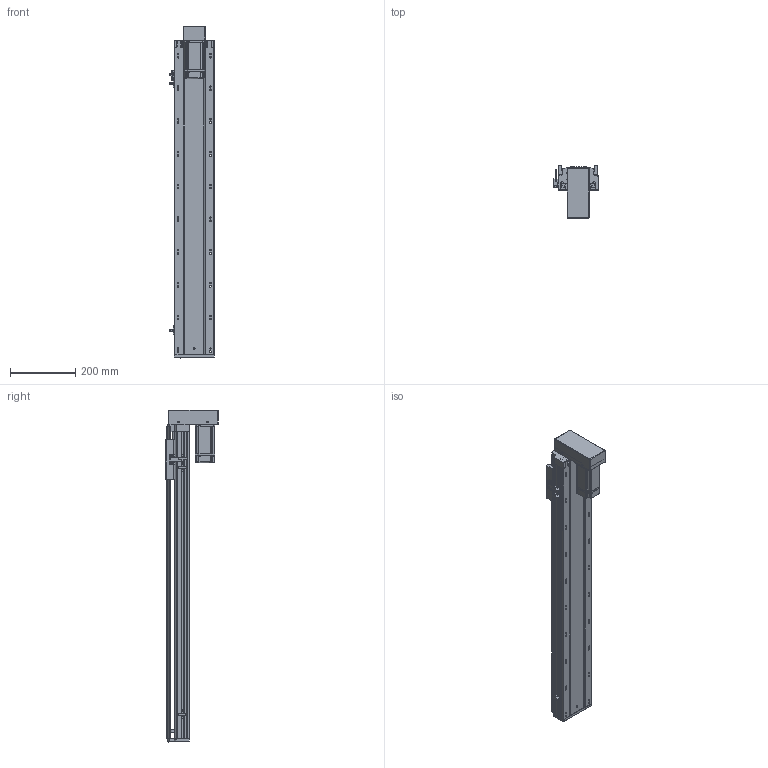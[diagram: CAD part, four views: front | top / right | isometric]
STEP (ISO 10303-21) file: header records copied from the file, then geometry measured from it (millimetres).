
FILE_DESCRIPTION (( 'STEP AP203' ), '1' );
FILE_NAME ('RY120-L2020-300-BK.SLDASM_750.step', '2021-03-12T06:58:01', ( '盈信电脑' ), ( '东莞市道滘镇水果街19号' ), 'SwSTEP 2.0', 'SolidWorks 2012', '' );
FILE_SCHEMA (( 'CONFIG_CONTROL_DESIGN' ));
Length unit declared in the file: millimetre
Products named in the file (15): RY120-L2020-300-BK.SLDASM_750; RY120下折折电机安装板; RY120-400W萇儂傷-BK; 侂狟400W侜督萇儂; RY120狟殏萇儂欶; 滅袉蝶18-24; RY120转拆电端丝杆支撑座(20丝杆，7002轴承); RY120外置感应片(140共用）; 15; RY120綴裔啣; 覜茼ん672; RY120臏賑輸(20蹟譫); 滅袉蝶18-10; RY120-300-BK蛌殏倰第奻裔啣_750; RY120-300-BK蛌殏倰第菁釱_750
Assembly tree (17 placements, depth 4):
  RY120-L2020-300-BK.SLDASM_750
    RY120-300-BK蛌殏倰第菁釱_750
    RY120-300-BK蛌殏倰第奻裔啣_750
    RY120臏賑輸(20蹟譫)
    RY120綴裔啣
    覜茼ん672  x3
    滅袉蝶18-10
    滅袉蝶18-24  x2
    RY120外置感应片(140共用）
    RY120转拆电端丝杆支撑座(20丝杆，7002轴承)
    RY120-400W萇儂傷-BK
      侂狟400W侜督萇儂
        15
      RY120狟殏萇儂欶
      RY120下折折电机安装板
Bounding box: 135.7 x 159.5 x 1014 mm (x, y, z)
Volume: 2954888.5 mm3; surface area: 1081204.6 mm2
Topology: 16 solids, 16 shells, 2558 faces, 7071 edges, 4536 vertices
Faces by surface type: plane 1246, cylinder 986, cone 221, bspline 105
Entity records: 86005 total; most frequent: CARTESIAN_POINT 24823, ORIENTED_EDGE 12846, DIRECTION 11727, EDGE_CURVE 6423, VERTEX_POINT 4204, AXIS2_PLACEMENT_3D 3917, LINE 3893, VECTOR 3893
